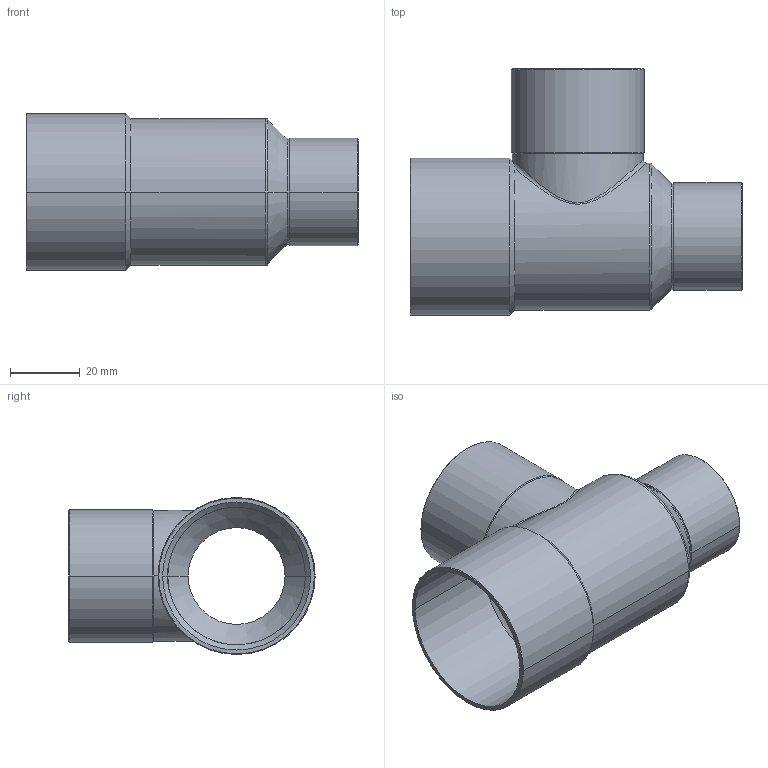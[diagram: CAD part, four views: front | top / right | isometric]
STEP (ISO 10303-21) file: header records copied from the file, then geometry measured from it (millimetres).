
FILE_DESCRIPTION((''),'2;1');
FILE_NAME('G:\Technics\CAD\Bauteile\15130\15130423528.stp','2005-11-03T13:43:07',('boden'),(''),'Autodesk Inventor 8','Autodesk Inventor 8','');
FILE_SCHEMA(('AUTOMOTIVE_DESIGN { 1 0 10303 214 1 1 1 1 }'));
Length unit declared in the file: millimetre
Products named in the file (1): 15130423528
Bounding box: 95 x 70.47 x 44.95 mm (x, y, z)
Volume: 19169 mm3; surface area: 29321.5 mm2
Topology: 1 solids, 1 shells, 57 faces, 130 edges, 74 vertices
Faces by surface type: cone 26, cylinder 24, plane 3, torus 2, bspline 2
Entity records: 2150 total; most frequent: CARTESIAN_POINT 834, DIRECTION 290, ORIENTED_EDGE 260, EDGE_CURVE 130, AXIS2_PLACEMENT_3D 120, VERTEX_POINT 74, CIRCLE 64, EDGE_LOOP 60
